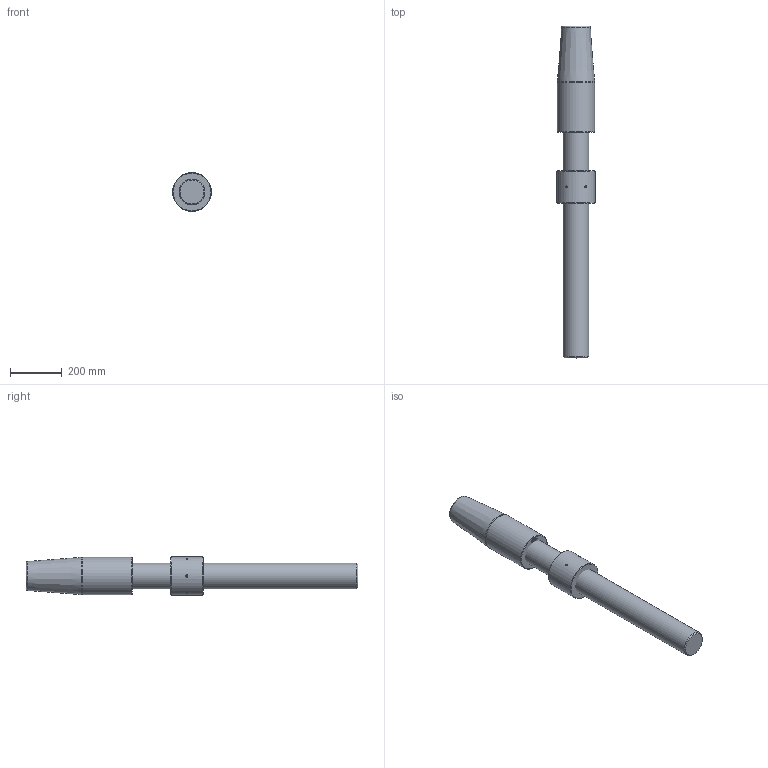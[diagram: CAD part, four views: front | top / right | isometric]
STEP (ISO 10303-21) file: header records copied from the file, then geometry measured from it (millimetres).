
FILE_DESCRIPTION(/* description */ (''),/* implementation_level */ '2;1');
FILE_NAME(/* name */ 'C:\Users\ranca\Desktop\CYM\ARRANGEMENT\CYM048 52 061 0.stp',/* time_stamp */ '2021-04-22T18:50:10+02:00',/* author */ ('ranca'),/* organization */ (''),/* preprocessor_version */ 'ST-DEVELOPER v16.13',/* originating_system */ 'Autodesk Inventor 2018',/* authorisation */ '');
FILE_SCHEMA (('AUTOMOTIVE_DESIGN { 1 0 10303 214 3 1 1 }'));
Length unit declared in the file: millimetre
Products named in the file (4): CYM048-52-061-0; CYM012-52-061-0_ROD; CYC048 52 065 0_CYL SOK_RH; CYM048-41-051-0
Assembly tree (3 placements, depth 2):
  CYM048-52-061-0
    CYM012-52-061-0_ROD
    CYC048 52 065 0_CYL SOK_RH
    CYM048-41-051-0
Bounding box: 150 x 1286 x 150 mm (x, y, z)
Volume: 16067395.6 mm3; surface area: 623936.3 mm2
Topology: 3 solids, 3 shells, 532 faces, 1417 edges, 942 vertices
Faces by surface type: bspline 269, plane 241, cone 11, cylinder 9, torus 2
Full cylindrical faces by diameter (mm): 8 x6, 100 x1, 145 x1, 150 x1
Entity records: 17986 total; most frequent: CARTESIAN_POINT 6585, ORIENTED_EDGE 2776, DIRECTION 1401, EDGE_CURVE 1388, VERTEX_POINT 936, LINE 817, VECTOR 817, EDGE_LOOP 606
